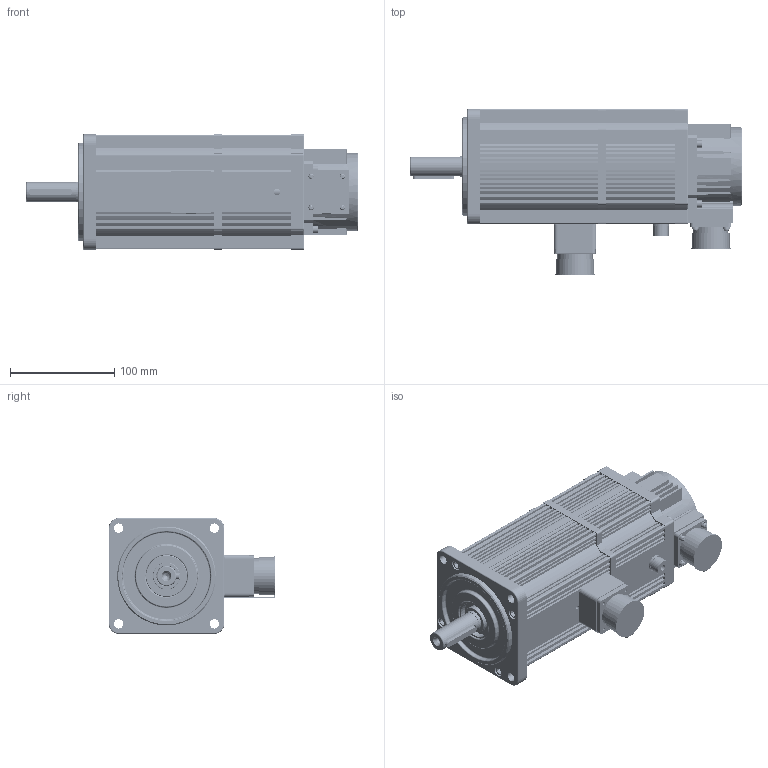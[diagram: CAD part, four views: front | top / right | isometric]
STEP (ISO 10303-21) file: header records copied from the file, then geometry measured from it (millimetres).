
FILE_DESCRIPTION (( 'STEP AP203' ), '1' );
FILE_NAME ('K1-110萇儂 惕掅 4Nm.STEP', '2020-01-11T02:28:37', ( 'gs' ), ( 'Microsoft' ), 'SwSTEP 2.0', 'SolidWorks 2019', '' );
FILE_SCHEMA (( 'CONFIG_CONTROL_DESIGN' ));
Length unit declared in the file: millimetre
Products named in the file (26): K1-130す瑩; K1-130瑤脣 惕掅(10Nm眕奻); K1-110晤鎢ん誘欶; K1-130諉盄釱; K1-130誘欶躇猾菜; K1-110萇儂 惕掅 4Nm; K1-110密封圈; M4X12; K1-130瑤脣雄薯盄; M5粟菜; M3す菜; K1-110粣 惕掅 4Nm; K1-110儂褲樓馱綴 4Nm; M5X20; curved single coil spring lock washers gb_GB_FASTENER_WASHER_CSLW 4; K1-110蛌赽郪璃 惕掅 4Nm; K1-110隅赽郪璃 4Nm; K1-130瑤脣15郋; M3X12啋儂; K1-110綴傷裔 惕掅; K1-110ヶ傷裔 譙跡; K1-130瑤脣砎蝶菜; M3X8啋儂; K1-110儂褲樓馱綴 惕掅; K1-110綴傷裔 譙跡; K1-130盄簽砎蝶菜
Assembly tree (63 placements, depth 3):
  K1-110萇儂 惕掅 4Nm
    K1-110隅赽郪璃 4Nm
      K1-110儂褲樓馱綴 4Nm
    K1-110ヶ傷裔 譙跡
    K1-110綴傷裔 譙跡
    K1-110晤鎢ん誘欶
    K1-110密封圈
    M5粟菜  x8
    M5X20  x8
    K1-130瑤脣15郋
    K1-130瑤脣砎蝶菜
    K1-130盄簽砎蝶菜  x2
    K1-130諉盄釱
    M4X12  x4
    M3す菜  x8
    curved single coil spring lock washers gb_GB_FASTENER_WASHER_CSLW 4  x8
    M3X12啋儂  x4
    M3X8啋儂  x4
    K1-130す瑩
    K1-130誘欶躇猾菜
    K1-130瑤脣雄薯盄
    K1-110蛌赽郪璃 惕掅 4Nm
      K1-110粣 惕掅 4Nm
    K1-110綴傷裔 惕掅
    K1-110儂褲樓馱綴 惕掅
    K1-130瑤脣 惕掅(10Nm眕奻)
Bounding box: 319 x 160.2 x 111.2 mm (x, y, z)
Volume: 967771.3 mm3; surface area: 497481.4 mm2
Topology: 64 solids, 66 shells, 3743 faces, 10131 edges, 6663 vertices
Faces by surface type: cylinder 2152, plane 1281, bspline 142, cone 104, torus 64
Entity records: 143974 total; most frequent: CARTESIAN_POINT 78684, ORIENTED_EDGE 14014, DIRECTION 11754, EDGE_CURVE 7007, VERTEX_POINT 4607, AXIS2_PLACEMENT_3D 4044, VECTOR 3666, LINE 3666
